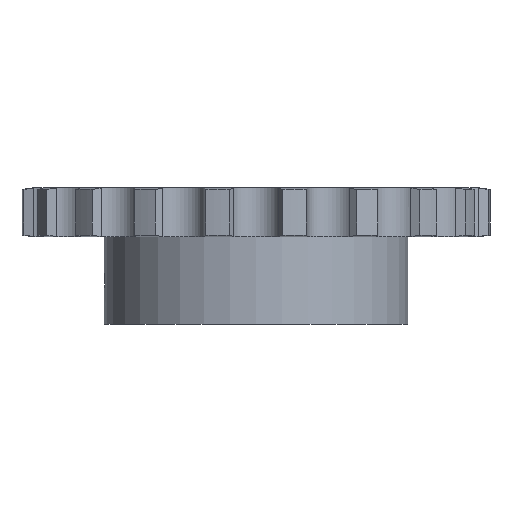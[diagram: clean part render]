
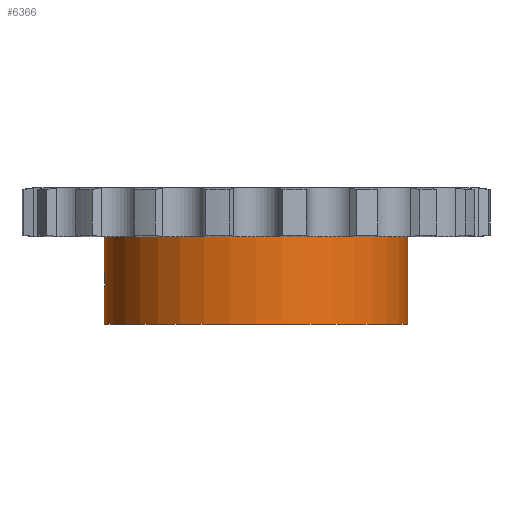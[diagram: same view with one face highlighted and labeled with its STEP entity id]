
A CAD part, front view. The second image highlights one B-rep face of the part: STEP entity #6366.
In plain terms, the highlighted cylindrical face has radius 50 mm (diameter 100 mm), a partial arc.
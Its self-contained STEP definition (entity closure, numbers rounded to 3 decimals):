
#1299=CARTESIAN_POINT('',(0.,0.,-8.1));
#1300=DIRECTION('',(0.,0.,1.));
#1301=DIRECTION('',(-1.,0.,0.));
#1302=AXIS2_PLACEMENT_3D('',#1299,#1300,#1301);
#3109=CARTESIAN_POINT('',(-50.,0.,
-19.5));
#3133=DIRECTION('',(0.,0.,1.));
#3134=VECTOR('',#3133,28.8);
#3135=CARTESIAN_POINT('',(50.,0.,-36.9));
#3136=LINE('',#3135,#3134);
#3258=CARTESIAN_POINT('',(-50.,0.,
-19.5));
#3259=CARTESIAN_POINT('',(-50.,-0.112,
-19.5));
#3260=CARTESIAN_POINT('',(-49.999,-0.365,
-19.514));
#3261=CARTESIAN_POINT('',(-49.995,-0.752,
-19.584));
#3262=CARTESIAN_POINT('',(-49.987,-1.152,
-19.714));
#3263=CARTESIAN_POINT('',(-49.977,-1.53,
-19.897));
#3264=CARTESIAN_POINT('',(-49.965,-1.877,
-20.129));
#3265=CARTESIAN_POINT('',(-49.952,-2.188,
-20.405));
#3266=CARTESIAN_POINT('',(-49.94,-2.457,
-20.72));
#3267=CARTESIAN_POINT('',(-49.928,-2.681,
-21.069));
#3268=CARTESIAN_POINT('',(-49.919,-2.855,
-21.446));
#3269=CARTESIAN_POINT('',(-49.912,-2.973,
-21.84));
#3270=CARTESIAN_POINT('',(-49.908,-3.028,
-22.195));
#3271=CARTESIAN_POINT('',(-49.908,-3.038,
-22.414));
#3272=CARTESIAN_POINT('',(-49.908,-3.038,
-22.5));
#3277=DIRECTION('',(0.,0.,1.));
#3278=VECTOR('',#3277,11.4);
#3279=CARTESIAN_POINT('',(-50.,0.,
-19.5));
#3280=LINE('',#3279,#3278);
#3284=DIRECTION('',(0.,0.,1.));
#3285=VECTOR('',#3284,11.4);
#3286=CARTESIAN_POINT('',(-50.,0.,-36.9));
#3287=LINE('',#3286,#3285);
#3291=CARTESIAN_POINT('',(-49.908,-3.038,
-22.5));
#3292=CARTESIAN_POINT('',(-49.908,-3.038,
-22.598));
#3293=CARTESIAN_POINT('',(-49.908,-3.027,
-22.829));
#3294=CARTESIAN_POINT('',(-49.912,-2.965,
-23.193));
#3295=CARTESIAN_POINT('',(-49.919,-2.843,
-23.583));
#3296=CARTESIAN_POINT('',(-49.929,-2.668,
-23.955));
#3297=CARTESIAN_POINT('',(-49.941,-2.442,
-24.3));
#3298=CARTESIAN_POINT('',(-49.953,-2.173,
-24.61));
#3299=CARTESIAN_POINT('',(-49.966,-1.863,
-24.882));
#3300=CARTESIAN_POINT('',(-49.977,-1.517,
-25.11));
#3301=CARTESIAN_POINT('',(-49.987,-1.142,
-25.29));
#3302=CARTESIAN_POINT('',(-49.995,-0.745,
-25.418));
#3303=CARTESIAN_POINT('',(-49.999,-0.361,
-25.486));
#3304=CARTESIAN_POINT('',(-50.,-0.111,
-25.5));
#3305=CARTESIAN_POINT('',(-50.,0.,
-25.5));
#3318=CARTESIAN_POINT('',(0.,0.,-36.9));
#3319=DIRECTION('',(0.,0.,-1.));
#3320=DIRECTION('',(1.,0.,0.));
#3321=AXIS2_PLACEMENT_3D('',#3318,#3319,#3320);
#3703=CARTESIAN_POINT('',(-50.,0.,-36.9));
#3704=CARTESIAN_POINT('',(50.,0.,-36.9));
#3705=VERTEX_POINT('',#3703);
#3706=VERTEX_POINT('',#3704);
#3707=CARTESIAN_POINT('',(50.,0.,-8.1));
#3708=VERTEX_POINT('',#3707);
#3709=CARTESIAN_POINT('',(-50.,0.,-8.1));
#3710=VERTEX_POINT('',#3709);
#3910=VERTEX_POINT('',#3109);
#3913=VERTEX_POINT('',#3272);
#3915=VERTEX_POINT('',#3305);
#6350=CARTESIAN_POINT('',(0.,0.,8.1));
#6351=DIRECTION('',(0.,0.,1.));
#6352=DIRECTION('',(1.,0.,0.));
#6353=AXIS2_PLACEMENT_3D('',#6350,#6351,#6352);
#6354=CYLINDRICAL_SURFACE('',#6353,50.);
#6355=ORIENTED_EDGE('',*,*,#6340,.F.);
#6356=ORIENTED_EDGE('',*,*,#5931,.T.);
#6357=ORIENTED_EDGE('',*,*,#5238,.T.);
#6358=ORIENTED_EDGE('',*,*,#5928,.F.);
#6360=ORIENTED_EDGE('',*,*,#6359,.T.);
#6361=ORIENTED_EDGE('',*,*,#5924,.T.);
#6363=ORIENTED_EDGE('',*,*,#6362,.F.);
#6364=EDGE_LOOP('',(#6355,#6356,#6357,#6358,#6360,#6361,#6363));
#6365=FACE_OUTER_BOUND('',#6364,.F.);
#6366=ADVANCED_FACE('',(#6365),#6354,.T.);
#1303=CIRCLE('',#1302,50.);
#3273=B_SPLINE_CURVE_WITH_KNOTS('',3,(#3258,#3259,#3260,#3261,#3262,#3263,#3264,
#3265,#3266,#3267,#3268,#3269,#3270,#3271,#3272),.UNSPECIFIED.,.F.,.F.,(4,1,1,1,
1,1,1,1,1,1,1,1,4),(0.,0.07,0.158,0.245,
0.332,0.42,0.507,0.594,
0.681,0.769,0.856,0.943,1.),
.UNSPECIFIED.);
#3306=B_SPLINE_CURVE_WITH_KNOTS('',3,(#3291,#3292,#3293,#3294,#3295,#3296,#3297,
#3298,#3299,#3300,#3301,#3302,#3303,#3304,#3305),.UNSPECIFIED.,.F.,.F.,(4,1,1,1,
1,1,1,1,1,1,1,1,4),(0.,0.065,0.152,0.238,
0.325,0.411,0.498,0.584,
0.671,0.757,0.844,0.93,1.),
.UNSPECIFIED.);
#3322=CIRCLE('',#3321,50.);
#5238=EDGE_CURVE('',#3710,#3708,#1303,.T.);
#5924=EDGE_CURVE('',#3705,#3915,#3287,.T.);
#5928=EDGE_CURVE('',#3706,#3708,#3136,.T.);
#5931=EDGE_CURVE('',#3910,#3710,#3280,.T.);
#6340=EDGE_CURVE('',#3910,#3913,#3273,.T.);
#6359=EDGE_CURVE('',#3706,#3705,#3322,.T.);
#6362=EDGE_CURVE('',#3913,#3915,#3306,.T.);
